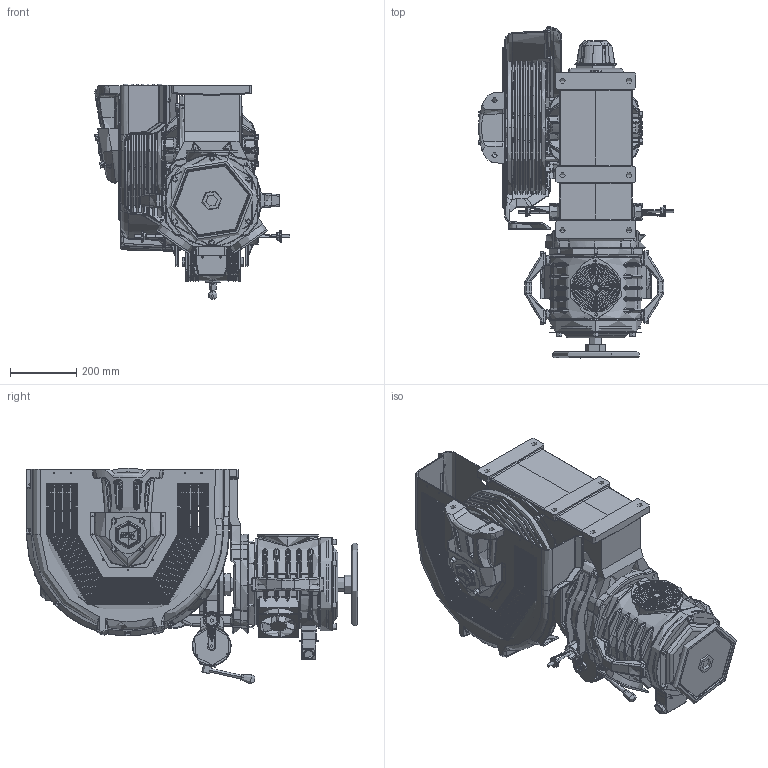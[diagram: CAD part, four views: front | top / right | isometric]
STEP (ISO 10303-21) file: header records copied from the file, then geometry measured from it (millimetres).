
FILE_DESCRIPTION (( 'STEP AP214' ), '1' );
FILE_NAME ('ST75063.STEP', '2026-01-19T14:06:19', ( '' ), ( '' ), 'SwSTEP 2.0', 'SolidWorks 2023', '' );
FILE_SCHEMA (( 'AUTOMOTIVE_DESIGN' ));
Length unit declared in the file: millimetre
Products named in the file (1): ST75063
Bounding box: 586.99 x 998.18 x 649.18 mm (x, y, z)
Topology: 90 solids, 98 shells, 8530 faces, 21034 edges, 12583 vertices
Faces by surface type: cylinder 2565, plane 2444, bspline 1897, torus 812, cone 582, sphere 230
Full cylindrical faces by diameter (mm): 20 x3
Entity records: 328568 total; most frequent: CARTESIAN_POINT 139169, ORIENTED_EDGE 41734, DIRECTION 36964, EDGE_CURVE 20867, AXIS2_PLACEMENT_3D 14814, VERTEX_POINT 12535, EDGE_LOOP 9310, FACE_OUTER_BOUND 8528
